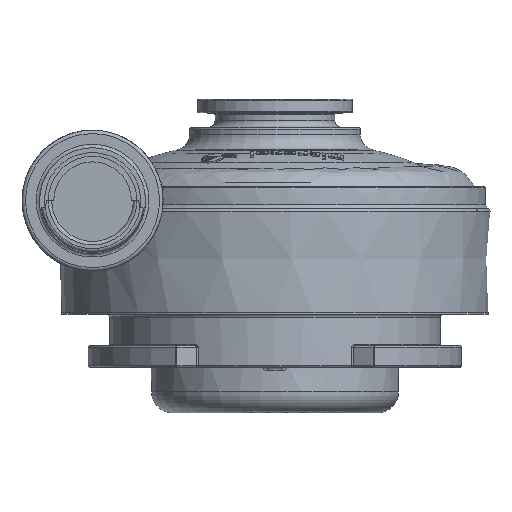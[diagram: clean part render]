
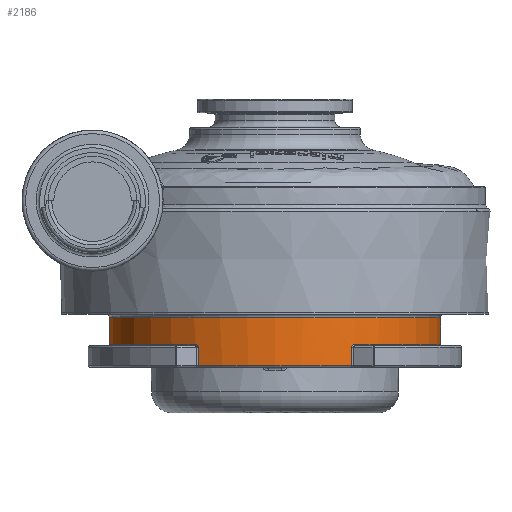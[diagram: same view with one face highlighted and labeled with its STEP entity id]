
A CAD part, left-side view. The second image highlights one B-rep face of the part: STEP entity #2186.
In plain terms, the highlighted cylindrical face has radius 23.5 mm (diameter 47 mm), a partial arc.
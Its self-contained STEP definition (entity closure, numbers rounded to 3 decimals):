
#208=(
BOUNDED_CURVE()
B_SPLINE_CURVE(3,(#20444,#20445,#20446,#20447),.UNSPECIFIED.,.F.,.F.)
B_SPLINE_CURVE_WITH_KNOTS((4,4),(0.,1.),.UNSPECIFIED.)
CURVE()
GEOMETRIC_REPRESENTATION_ITEM()
RATIONAL_B_SPLINE_CURVE((1.,1.,1.,1.))
REPRESENTATION_ITEM('')
);
#209=(
BOUNDED_CURVE()
B_SPLINE_CURVE(3,(#20455,#20456,#20457,#20458),.UNSPECIFIED.,.F.,.F.)
B_SPLINE_CURVE_WITH_KNOTS((4,4),(0.,1.),.UNSPECIFIED.)
CURVE()
GEOMETRIC_REPRESENTATION_ITEM()
RATIONAL_B_SPLINE_CURVE((1.,1.,1.,1.))
REPRESENTATION_ITEM('')
);
#272=CYLINDRICAL_SURFACE('',#9076,23.5);
#585=LINE('',#20435,#979);
#586=LINE('',#20440,#980);
#587=LINE('',#20449,#981);
#588=LINE('',#20453,#982);
#979=VECTOR('',#10417,1.);
#980=VECTOR('',#10420,1.);
#981=VECTOR('',#10423,1.);
#982=VECTOR('',#10426,1.);
#1651=FACE_OUTER_BOUND('',#3252,.T.);
#2186=ADVANCED_FACE('',(#1651),#272,.T.);
#2593=CIRCLE('',#9072,23.5);
#2594=CIRCLE('',#9073,23.5);
#2595=CIRCLE('',#9074,23.5);
#2596=CIRCLE('',#9075,23.5);
#3252=EDGE_LOOP('',(#5145,#5146,#5147,#5148,#5149,#5150,#5151,#5152,#5153,
#5154));
#5145=ORIENTED_EDGE('',*,*,#7704,.F.);
#5146=ORIENTED_EDGE('',*,*,#7705,.T.);
#5147=ORIENTED_EDGE('',*,*,#7706,.T.);
#5148=ORIENTED_EDGE('',*,*,#7707,.F.);
#5149=ORIENTED_EDGE('',*,*,#7708,.F.);
#5150=ORIENTED_EDGE('',*,*,#7709,.T.);
#5151=ORIENTED_EDGE('',*,*,#7710,.T.);
#5152=ORIENTED_EDGE('',*,*,#7711,.T.);
#5153=ORIENTED_EDGE('',*,*,#7712,.F.);
#5154=ORIENTED_EDGE('',*,*,#7713,.F.);
#6614=VERTEX_POINT('',#20436);
#6615=VERTEX_POINT('',#20437);
#6616=VERTEX_POINT('',#20439);
#6617=VERTEX_POINT('',#20441);
#6618=VERTEX_POINT('',#20443);
#6619=VERTEX_POINT('',#20448);
#6620=VERTEX_POINT('',#20450);
#6621=VERTEX_POINT('',#20452);
#6622=VERTEX_POINT('',#20454);
#6623=VERTEX_POINT('',#20459);
#7704=EDGE_CURVE('',#6614,#6615,#585,.T.);
#7705=EDGE_CURVE('',#6614,#6616,#2593,.T.);
#7706=EDGE_CURVE('',#6616,#6617,#586,.T.);
#7707=EDGE_CURVE('',#6618,#6617,#2594,.T.);
#7708=EDGE_CURVE('',#6619,#6618,#208,.T.);
#7709=EDGE_CURVE('',#6619,#6620,#587,.T.);
#7710=EDGE_CURVE('',#6620,#6621,#2595,.T.);
#7711=EDGE_CURVE('',#6621,#6622,#588,.T.);
#7712=EDGE_CURVE('',#6623,#6622,#209,.T.);
#7713=EDGE_CURVE('',#6615,#6623,#2596,.T.);
#9072=AXIS2_PLACEMENT_3D('',#20438,#10418,#10419);
#9073=AXIS2_PLACEMENT_3D('',#20442,#10421,#10422);
#9074=AXIS2_PLACEMENT_3D('',#20451,#10424,#10425);
#9075=AXIS2_PLACEMENT_3D('',#20460,#10427,#10428);
#9076=AXIS2_PLACEMENT_3D('',#20461,#10429,#10430);
#10417=DIRECTION('',(0.,0.,-1.));
#10418=DIRECTION('',(0.,0.,-1.));
#10419=DIRECTION('',(0.,1.,0.));
#10420=DIRECTION('',(0.,0.,-1.));
#10421=DIRECTION('',(0.,0.,-1.));
#10422=DIRECTION('',(0.,-1.,0.));
#10423=DIRECTION('',(0.,0.,-1.));
#10424=DIRECTION('',(0.,0.,1.));
#10425=DIRECTION('',(0.,1.,0.));
#10426=DIRECTION('',(0.,0.,1.));
#10427=DIRECTION('',(0.,0.,-1.));
#10428=DIRECTION('',(-1.,0.,0.));
#10429=DIRECTION('',(0.,0.,1.));
#10430=DIRECTION('',(0.,1.,0.));
#20435=CARTESIAN_POINT('',(-1.,-23.479,9.7));
#20436=CARTESIAN_POINT('',(-1.,-23.479,13.5));
#20437=CARTESIAN_POINT('',(-1.,-23.479,9.7));
#20438=CARTESIAN_POINT('',(0.,0.,13.5));
#20439=CARTESIAN_POINT('',(-1.,23.479,13.5));
#20440=CARTESIAN_POINT('',(-1.,23.479,9.7));
#20441=CARTESIAN_POINT('',(-1.,23.479,9.7));
#20442=CARTESIAN_POINT('',(0.,0.,9.7));
#20443=CARTESIAN_POINT('',(-20.604,11.301,9.7));
#20444=CARTESIAN_POINT('',(-20.826,10.888,9.3));
#20445=CARTESIAN_POINT('',(-20.826,10.888,9.547));
#20446=CARTESIAN_POINT('',(-20.71,11.108,9.7));
#20447=CARTESIAN_POINT('',(-20.604,11.301,9.7));
#20448=CARTESIAN_POINT('',(-20.826,10.888,9.3));
#20449=CARTESIAN_POINT('',(-20.826,10.888,16.887));
#20450=CARTESIAN_POINT('',(-20.826,10.888,6.7));
#20451=CARTESIAN_POINT('',(0.,0.,6.7));
#20452=CARTESIAN_POINT('',(-20.826,-10.888,6.7));
#20453=CARTESIAN_POINT('',(-20.826,-10.888,16.887));
#20454=CARTESIAN_POINT('',(-20.826,-10.888,9.3));
#20455=CARTESIAN_POINT('',(-20.604,-11.301,9.7));
#20456=CARTESIAN_POINT('',(-20.711,-11.107,9.7));
#20457=CARTESIAN_POINT('',(-20.826,-10.888,9.546));
#20458=CARTESIAN_POINT('',(-20.826,-10.888,9.3));
#20459=CARTESIAN_POINT('',(-20.604,-11.301,9.7));
#20460=CARTESIAN_POINT('',(0.,0.,9.7));
#20461=CARTESIAN_POINT('',(0.,0.,16.887));
